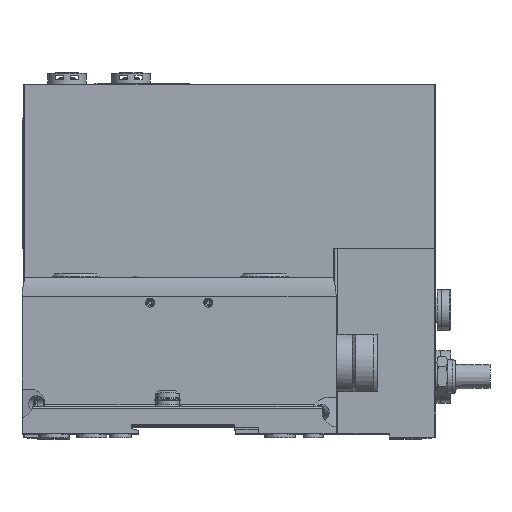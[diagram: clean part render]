
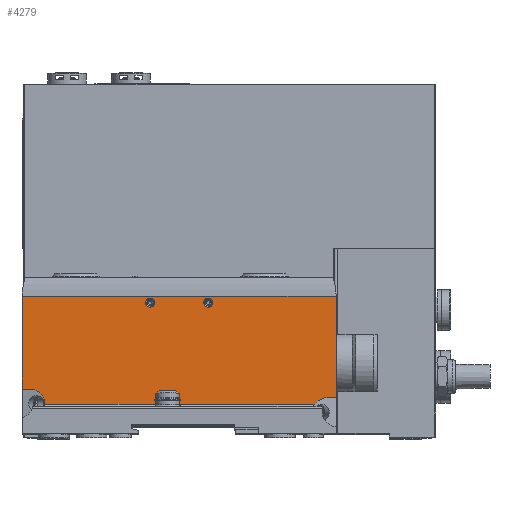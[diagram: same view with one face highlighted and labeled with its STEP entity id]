
A CAD part, top view. The second image highlights one B-rep face of the part: STEP entity #4279.
In plain terms, the highlighted planar face has unit normal (0, 0, 1) as drawn and (-1, 0, 0) by its records, which use the part's own axes.
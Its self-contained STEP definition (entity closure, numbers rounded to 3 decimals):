
#4279 = ADVANCED_FACE( '', ( #9900, #9901, #9902 ), #9903, .F. );
#9900 = FACE_BOUND( '', #17272, .T. );
#9901 = FACE_BOUND( '', #17273, .T. );
#9902 = FACE_OUTER_BOUND( '', #17274, .T. );
#9903 = PLANE( '', #17275 );
#17272 = EDGE_LOOP( '', ( #29286 ) );
#17273 = EDGE_LOOP( '', ( #29287 ) );
#17274 = EDGE_LOOP( '', ( #29288, #29289, #29290, #29291, #29292, #29293, #29294, #29295 ) );
#17275 = AXIS2_PLACEMENT_3D( '', #29296, #29297, #29298 );
#29286 = ORIENTED_EDGE( '', *, *, #44063, .T. );
#29287 = ORIENTED_EDGE( '', *, *, #44064, .T. );
#29288 = ORIENTED_EDGE( '', *, *, #44065, .T. );
#29289 = ORIENTED_EDGE( '', *, *, #41826, .T. );
#29290 = ORIENTED_EDGE( '', *, *, #42837, .F. );
#29291 = ORIENTED_EDGE( '', *, *, #44066, .F. );
#29292 = ORIENTED_EDGE( '', *, *, #44067, .F. );
#29293 = ORIENTED_EDGE( '', *, *, #44068, .T. );
#29294 = ORIENTED_EDGE( '', *, *, #43979, .F. );
#29295 = ORIENTED_EDGE( '', *, *, #44069, .T. );
#29296 = CARTESIAN_POINT( '', ( -15.4, 48.7, 54.05 ) );
#29297 = DIRECTION( '', ( 1., 0., 0. ) );
#29298 = DIRECTION( '', ( 0., 0., -1. ) );
#41826 = EDGE_CURVE( '', #50284, #50286, #50288, .T. );
#42837 = EDGE_CURVE( '', #51902, #50286, #51903, .F. );
#43979 = EDGE_CURVE( '', #53653, #53648, #53655, .T. );
#44063 = EDGE_CURVE( '', #53772, #53772, #53773, .T. );
#44064 = EDGE_CURVE( '', #53774, #53774, #53775, .T. );
#44065 = EDGE_CURVE( '', #53776, #50284, #53777, .T. );
#44066 = EDGE_CURVE( '', #53778, #51902, #53779, .T. );
#44067 = EDGE_CURVE( '', #53780, #53778, #53781, .F. );
#44068 = EDGE_CURVE( '', #53780, #53648, #53782, .T. );
#44069 = EDGE_CURVE( '', #53653, #53776, #53783, .T. );
#50284 = VERTEX_POINT( '', #62012 );
#50286 = VERTEX_POINT( '', #62015 );
#50288 = LINE( '', #62018, #62019 );
#51902 = VERTEX_POINT( '', #64399 );
#51903 = ELLIPSE( '', #64400, 5.176, 5. );
#53648 = VERTEX_POINT( '', #66786 );
#53653 = VERTEX_POINT( '', #66794 );
#53655 = LINE( '', #66796, #66797 );
#53772 = VERTEX_POINT( '', #66970 );
#53773 = CIRCLE( '', #66971, 1.55 );
#53774 = VERTEX_POINT( '', #66972 );
#53775 = CIRCLE( '', #66973, 1.55 );
#53776 = VERTEX_POINT( '', #66974 );
#53777 = LINE( '', #66975, #66976 );
#53778 = VERTEX_POINT( '', #66977 );
#53779 = LINE( '', #66978, #66979 );
#53780 = VERTEX_POINT( '', #66980 );
#53781 = ELLIPSE( '', #66981, 5.132, 5. );
#53782 = LINE( '', #66982, #66983 );
#53783 = LINE( '', #66984, #66985 );
#62012 = CARTESIAN_POINT( '', ( -15.4, 16.8, -54.05 ) );
#62015 = CARTESIAN_POINT( '', ( -15.4, 16.8, -51.491 ) );
#62018 = CARTESIAN_POINT( '', ( -15.4, 16.8, 54.05 ) );
#62019 = VECTOR( '', #74819, 1000. );
#64399 = CARTESIAN_POINT( '', ( -15.4, 11.6, -46.319 ) );
#64400 = AXIS2_PLACEMENT_3D( '', #76122, #76123, #76124 );
#66786 = CARTESIAN_POINT( '', ( -15.4, 13.8, 54.05 ) );
#66794 = CARTESIAN_POINT( '', ( -15.4, 48.7, 54.05 ) );
#66796 = CARTESIAN_POINT( '', ( -15.4, 48.7, 54.05 ) );
#66797 = VECTOR( '', #77681, 1000. );
#66970 = CARTESIAN_POINT( '', ( -15.4, 46.55, -11.55 ) );
#66971 = AXIS2_PLACEMENT_3D( '', #77775, #77776, #77777 );
#66972 = CARTESIAN_POINT( '', ( -15.4, 46.55, 8.45 ) );
#66973 = AXIS2_PLACEMENT_3D( '', #77778, #77779, #77780 );
#66974 = CARTESIAN_POINT( '', ( -15.4, 48.7, -54.05 ) );
#66975 = CARTESIAN_POINT( '', ( -15.4, 48.7, -54.05 ) );
#66976 = VECTOR( '', #77781, 1000. );
#66977 = CARTESIAN_POINT( '', ( -15.4, 11.6, 46.669 ) );
#66978 = CARTESIAN_POINT( '', ( -15.4, 11.6, 54.05 ) );
#66979 = VECTOR( '', #77782, 1000. );
#66980 = CARTESIAN_POINT( '', ( -15.4, 13.8, 50.92 ) );
#66981 = AXIS2_PLACEMENT_3D( '', #77783, #77784, #77785 );
#66982 = CARTESIAN_POINT( '', ( -15.4, 13.8, 54.05 ) );
#66983 = VECTOR( '', #77786, 1000. );
#66984 = CARTESIAN_POINT( '', ( -15.4, 48.7, 54.05 ) );
#66985 = VECTOR( '', #77787, 1000. );
#74819 = DIRECTION( '', ( 0., 0., 1. ) );
#76122 = CARTESIAN_POINT( '', ( -15.4, 11.8, -51.491 ) );
#76123 = DIRECTION( '', ( 1., 0., 0. ) );
#76124 = DIRECTION( '', ( 0., 0., 1. ) );
#77681 = DIRECTION( '', ( 0., -1., 0. ) );
#77775 = CARTESIAN_POINT( '', ( -15.4, 46.55, -10. ) );
#77776 = DIRECTION( '', ( 1., 0., 0. ) );
#77777 = DIRECTION( '', ( 0., 0., -1. ) );
#77778 = CARTESIAN_POINT( '', ( -15.4, 46.55, 10. ) );
#77779 = DIRECTION( '', ( 1., 0., 0. ) );
#77780 = DIRECTION( '', ( 0., 0., -1. ) );
#77781 = DIRECTION( '', ( 0., -1., 0. ) );
#77782 = DIRECTION( '', ( 0., 0., -1. ) );
#77783 = CARTESIAN_POINT( '', ( -15.4, 8.8, 50.92 ) );
#77784 = DIRECTION( '', ( 1., 0., 0. ) );
#77785 = DIRECTION( '', ( 0., 0., -1. ) );
#77786 = DIRECTION( '', ( 0., 0., 1. ) );
#77787 = DIRECTION( '', ( 0., 0., -1. ) );
